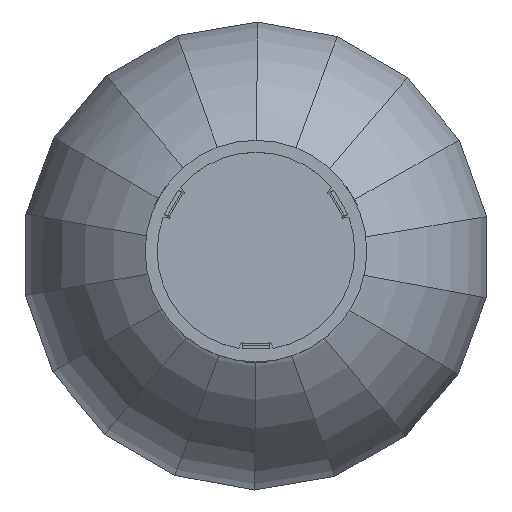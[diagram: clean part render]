
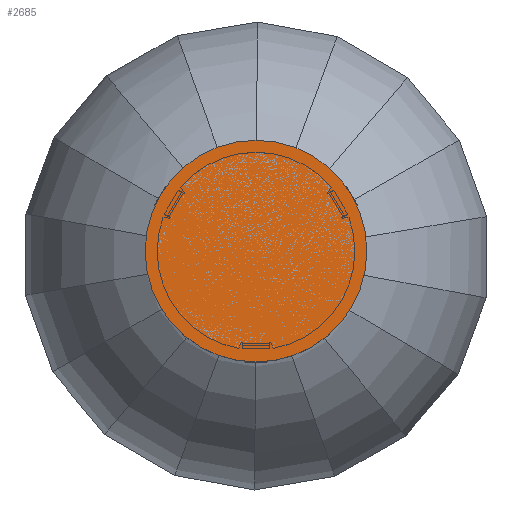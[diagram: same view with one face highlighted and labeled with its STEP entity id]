
A CAD part, top view. The second image highlights one B-rep face of the part: STEP entity #2685.
In plain terms, the highlighted planar face has unit normal (0, 0, 1).
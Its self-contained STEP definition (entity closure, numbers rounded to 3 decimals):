
#594=FACE_OUTER_BOUND('',#783,.T.);
#783=EDGE_LOOP('',(#1790));
#980=CIRCLE('',#2913,60.);
#1139=VERTEX_POINT('',#4210);
#1388=EDGE_CURVE('',#1139,#1139,#980,.T.);
#1790=ORIENTED_EDGE('',*,*,#1388,.T.);
#2594=PLANE('',#2912);
#2685=ADVANCED_FACE('',(#594),#2594,.F.);
#2912=AXIS2_PLACEMENT_3D('',#4209,#3282,#3283);
#2913=AXIS2_PLACEMENT_3D('',#4211,#3284,#3285);
#3282=DIRECTION('center_axis',(0.,0.,
-1.));
#3283=DIRECTION('ref_axis',(0.866,-0.5,0.));
#3284=DIRECTION('center_axis',(0.,0.,
1.));
#3285=DIRECTION('ref_axis',(-0.866,0.5,0.));
#4209=CARTESIAN_POINT('Origin',(0.,0.,
1644.2));
#4210=CARTESIAN_POINT('',(51.962,-30.,1644.2));
#4211=CARTESIAN_POINT('Origin',(0.,0.,
1644.2));
